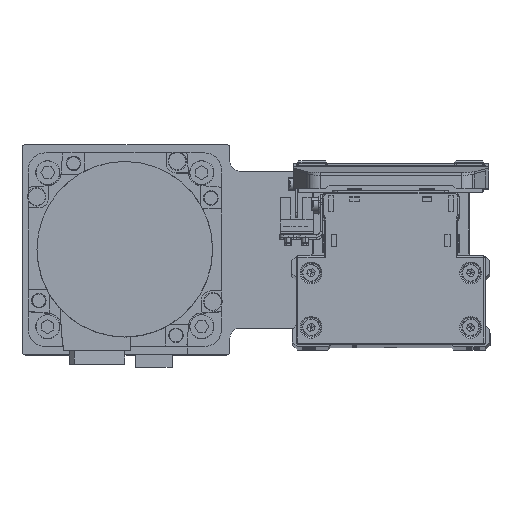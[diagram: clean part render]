
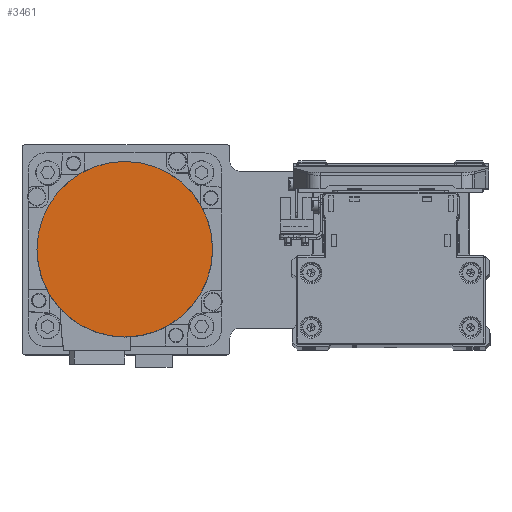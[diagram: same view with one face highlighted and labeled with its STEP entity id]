
A CAD part, top view. The second image highlights one B-rep face of the part: STEP entity #3461.
In plain terms, the highlighted planar face has unit normal (0, 0, 1) as drawn and (0, 0, -1) by its records, which use the part's own axes.
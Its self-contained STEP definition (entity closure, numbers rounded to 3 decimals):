
#773 = EDGE_CURVE ( 'NONE', #23334, #26028, #39422, .T. ) ;
#3461 = ADVANCED_FACE ( 'NONE', ( #10896 ), #23142, .F. ) ;
#3467 = EDGE_LOOP ( 'NONE', ( #33319, #12531 ) ) ;
#4209 = CARTESIAN_POINT ( 'NONE',  ( 0., 0., -122.2 ) ) ;
#5706 = CARTESIAN_POINT ( 'NONE',  ( 0., 0., -122.2 ) ) ;
#7885 = DIRECTION ( 'NONE',  ( 0., 0., 1. ) ) ;
#8369 = EDGE_CURVE ( 'NONE', #26028, #23334, #27281, .T. ) ;
#9770 = CARTESIAN_POINT ( 'NONE',  ( 0., 36.3, -122.2 ) ) ;
#10537 = AXIS2_PLACEMENT_3D ( 'NONE', #5706, #17973, #30184 ) ;
#10896 = FACE_OUTER_BOUND ( 'NONE', #3467, .T. ) ;
#12531 = ORIENTED_EDGE ( 'NONE', *, *, #8369, .F. ) ;
#13394 = AXIS2_PLACEMENT_3D ( 'NONE', #35359, #7885, #20145 ) ;
#16459 = DIRECTION ( 'NONE',  ( 0., 0., 1. ) ) ;
#17973 = DIRECTION ( 'NONE',  ( 0., 0., 1. ) ) ;
#20145 = DIRECTION ( 'NONE',  ( 1., 0., 0. ) ) ;
#22155 = AXIS2_PLACEMENT_3D ( 'NONE', #4209, #16459, #28674 ) ;
#23142 = PLANE ( 'NONE',  #13394 ) ;
#23334 = VERTEX_POINT ( 'NONE', #9770 ) ;
#26028 = VERTEX_POINT ( 'NONE', #34053 ) ;
#27281 = CIRCLE ( 'NONE', #10537, 36.3 ) ;
#28674 = DIRECTION ( 'NONE',  ( 0., 1., 0. ) ) ;
#30184 = DIRECTION ( 'NONE',  ( 0., -1., 0. ) ) ;
#33319 = ORIENTED_EDGE ( 'NONE', *, *, #773, .F. ) ;
#34053 = CARTESIAN_POINT ( 'NONE',  ( 0., -36.3, -122.2 ) ) ;
#35359 = CARTESIAN_POINT ( 'NONE',  ( 0., 0., -122.2 ) ) ;
#39422 = CIRCLE ( 'NONE', #22155, 36.3 ) ;
